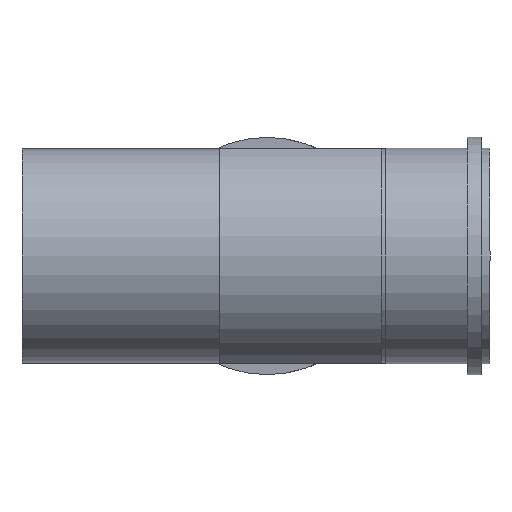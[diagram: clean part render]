
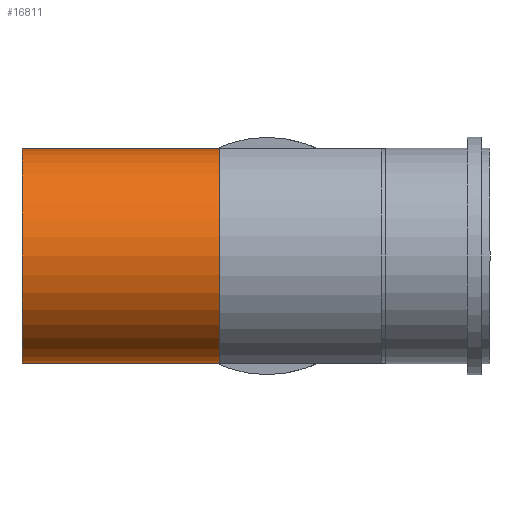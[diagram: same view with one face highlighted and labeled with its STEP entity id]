
A CAD part, front view. The second image highlights one B-rep face of the part: STEP entity #16811.
In plain terms, the highlighted cylindrical face has radius 79.883 mm (diameter 159.766 mm), a full revolution.
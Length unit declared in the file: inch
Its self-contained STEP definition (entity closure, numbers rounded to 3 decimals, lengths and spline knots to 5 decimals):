
#16603=CARTESIAN_POINT('',(-2.375,0.,3.145));
#16604=VERTEX_POINT('',#16603);
#16613=CARTESIAN_POINT('',(-2.375,0.,-3.145));
#16614=VERTEX_POINT('',#16613);
#16615=CARTESIAN_POINT('',(-2.375,0.,0.0));
#16616=DIRECTION('',(-1.0,0.0,0.0));
#16617=DIRECTION('',(0.0,-1.0,0.0));
#16618=AXIS2_PLACEMENT_3D('',#16615,#16616,#16617);
#16619=CIRCLE('',#16618,3.145);
#16620=EDGE_CURVE('',#16614,#16604,#16619,.T.);
#16662=CARTESIAN_POINT('',(-1.25,0.,-3.145));
#16663=VERTEX_POINT('',#16662);
#16664=CARTESIAN_POINT('',(-1.25,0.,-3.145));
#16665=DIRECTION('',(-1.0,0.0,0.0));
#16666=VECTOR('',#16665,1.125);
#16667=LINE('',#16664,#16666);
#16668=EDGE_CURVE('',#16663,#16614,#16667,.T.);
#16717=CARTESIAN_POINT('',(-1.25,0.,3.145));
#16718=VERTEX_POINT('',#16717);
#16725=CARTESIAN_POINT('',(-1.25,0.,3.145));
#16726=DIRECTION('',(-1.0,0.0,0.0));
#16727=VECTOR('',#16726,1.125);
#16728=LINE('',#16725,#16727);
#16729=EDGE_CURVE('',#16718,#16604,#16728,.T.);
#16783=CARTESIAN_POINT('',(-2.84375,0.,0.0));
#16784=DIRECTION('',(-1.0,0.,0.0));
#16785=DIRECTION('',(0.0,-1.0,0.0));
#16786=AXIS2_PLACEMENT_3D('',#16783,#16784,#16785);
#16787=CYLINDRICAL_SURFACE('',#16786,3.145);
#16788=CARTESIAN_POINT('',(-8.1875,-3.145,0.0));
#16789=VERTEX_POINT('',#16788);
#16790=CARTESIAN_POINT('',(-8.1875,0.,0.0));
#16791=DIRECTION('',(-1.0,0.0,0.0));
#16792=DIRECTION('',(0.0,-1.0,0.0));
#16793=AXIS2_PLACEMENT_3D('',#16790,#16791,#16792);
#16794=CIRCLE('',#16793,3.145);
#16795=EDGE_CURVE('',#16789,#16789,#16794,.T.);
#16796=ORIENTED_EDGE('',*,*,#16795,.F.);
#16797=EDGE_LOOP('',(#16796));
#16798=FACE_OUTER_BOUND('',#16797,.T.);
#16799=ORIENTED_EDGE('',*,*,#16668,.T.);
#16800=ORIENTED_EDGE('',*,*,#16620,.T.);
#16801=ORIENTED_EDGE('',*,*,#16729,.F.);
#16802=CARTESIAN_POINT('',(-1.25,0.,0.0));
#16803=DIRECTION('',(-0.722,-0.692,0.0));
#16804=DIRECTION('',(0.692,-0.722,0.0));
#16805=AXIS2_PLACEMENT_3D('',#16802,#16803,#16804);
#16806=ELLIPSE('',#16805,4.35376,3.145);
#16807=EDGE_CURVE('',#16718,#16663,#16806,.T.);
#16808=ORIENTED_EDGE('',*,*,#16807,.T.);
#16809=EDGE_LOOP('',(#16799,#16800,#16801,#16808));
#16810=FACE_BOUND('',#16809,.T.);
#16811=ADVANCED_FACE('',(#16798,#16810),#16787,.T.);
